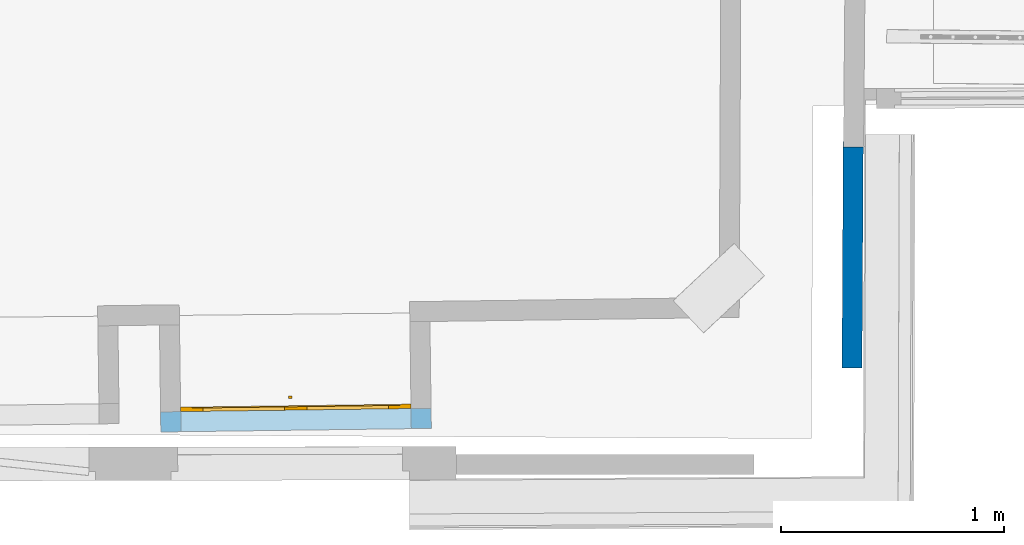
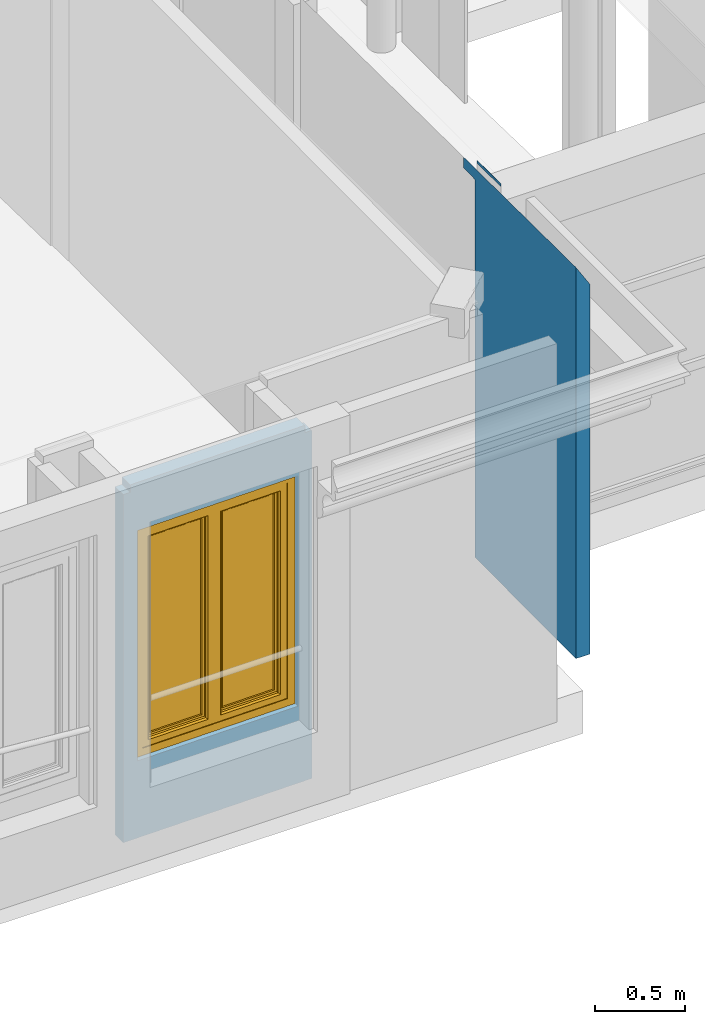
# One storey, part 52 of 72: 1 wall, 1 window, 1 opening, plus 1 element that does not belong to this part.
"""IFC2X3 building model written with IfcOpenShell, lengths in centimetres."""

from ifc_helpers import new_model, entity, si_unit, converted_unit, direction, frame, origin, origin_with_axes, origin_2d_with_axis, place, context, subcontext, project, spatial, polyline, rectangle, outline, extrude, clip, bounded_halfspace, faceted_brep, shape, source, transform, mapped, material, material_list, layer, layer_set, layer_usage, type_object, element, fill, save


model = new_model("IFC2X3")

# Units and contexts
model_context = context("Model", 3, precision=0.0001, world=origin(), true_north=direction((0.225632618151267, 0.974212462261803, 0.0)))
body_context = subcontext(model_context, "Body", "Model", "MODEL_VIEW")
footprint_context = subcontext(model_context, "FootPrint", "Model", "MODEL_VIEW")
profile_context = subcontext(model_context, "Profile", "Model", "MODEL_VIEW")
ifc_project = project(units=[si_unit("LENGTHUNIT", "METRE", prefix="CENTI"), si_unit("AREAUNIT", "SQUARE_METRE", prefix="CENTI"), si_unit("VOLUMEUNIT", "CUBIC_METRE", prefix="CENTI"), converted_unit("PLANEANGLEUNIT", "DEGREE", entity("IfcRatioMeasure", 0.0174532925), si_unit("PLANEANGLEUNIT", "RADIAN"), dimensions=[0, 0, 0, 0, 0, 0, 0])], contexts=[model_context])

# Site, building, storey
site_placement = place(None, origin_with_axes())
site = spatial("IfcSite", under=ifc_project, at=site_placement, Name="Default Site", CompositionType="ELEMENT")
building_placement = place(site_placement, origin_with_axes())
building = spatial("IfcBuilding", under=site, at=building_placement, Name="Default Building", CompositionType="ELEMENT")
storey_placement = place(building_placement, frame((0.0, 0.0, 853.910374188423), z_axis=(0.0, 0.0, 1.0), x_axis=(1.0, 0.0, 0.0)))
storey = spatial("IfcBuildingStorey", under=building, at=storey_placement, Name="Niveau 2", CompositionType="ELEMENT", Elevation=853.910374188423)

# Wall
ifc_material_1 = material(Name="<aucun>")
ifc_layer = layer(ifc_material_1, 9.0)
ifc_layer_set = layer_set([ifc_layer], Name="default")
ifc_layer_usage_1 = layer_usage(ifc_layer_set, "AXIS2", "POSITIVE", -4.5)
wall_type_1 = type_object("IfcWallType", Name="default 90", PredefinedType="NOTDEFINED", material=ifc_layer_set)
wall_1_placement = place(storey_placement, frame((889.237051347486, -999.693857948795, -1.95399252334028e-11), z_axis=(0.0, 0.0, 1.0), x_axis=(0.00565295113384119, 0.99998402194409, 0.0)))
element("IfcWall", 1, at=wall_1_placement, inside=storey, type_object=wall_type_1, material=ifc_layer_usage_1, Name="Enveloppe 550910", context=body_context, shape_type="Brep", body=[
    faceted_brep([(112.52012072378, 4.49998308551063, -2.33888428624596e-05), (109.939532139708, 4.49998308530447, -2.33888428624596e-05), (96.8534807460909, 4.49998308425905, -2.33888428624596e-05), (0.155081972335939, 4.499983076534, -2.33888428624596e-05), (0.155081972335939, 4.499983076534, 264.245105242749), (112.52012072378, 4.49998308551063, 262.555194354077), (112.52012072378, 4.49998308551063, 254.999995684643), (125.411237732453, 4.49999522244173, 254.999995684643), (112.52012072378, 4.49999522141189, 254.999995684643), (112.52012072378, 4.49999522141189, 262.555194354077), (125.411237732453, 4.49999522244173, 262.361312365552), (125.506476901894, -4.21590280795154, 254.999995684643), (99.5080256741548, -4.49997071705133, 254.999995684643), (99.5080256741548, -4.49997071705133, 256.961608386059), (125.506476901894, -4.21590280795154, 256.961608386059), (0.155032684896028, -4.50003249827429, -2.33888428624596e-05), (97.0990062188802, -4.50003249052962, -2.33888428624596e-05), (99.3097539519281, -4.500032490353, -2.33888428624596e-05), (99.3097539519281, -4.500032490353, 248.182845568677), (0.155032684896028, -4.50003249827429, 249.674010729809), (112.519797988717, 4.33775866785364, 254.999995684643), (99.3097085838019, 4.38174931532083, 254.999995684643), (99.3097085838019, 4.38174931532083, -2.33888428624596e-05), (112.519797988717, 4.33775866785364, -2.33888428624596e-05), (99.5080261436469, -4.50001368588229, 254.999995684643), (110.394106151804, -4.50001368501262, 254.999995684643), (110.394106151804, -4.50001368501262, 256.961608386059), (99.5080261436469, -4.50001368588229, 256.961608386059), (110.394106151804, -4.49998720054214, 254.999995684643), (125.507817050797, -4.33484966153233, 254.999995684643), (125.507817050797, -4.33484966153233, 256.961608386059), (110.394106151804, -4.49998720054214, 256.961608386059), (99.3097088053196, 4.38181583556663, -2.33888428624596e-05), (99.3096973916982, -0.289260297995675, -2.33888428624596e-05), (99.3097539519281, -4.49999009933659, -2.33888428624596e-05), (0.155011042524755, -4.31062987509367, -2.33888428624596e-05), (0.155035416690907, 0.189449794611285, -2.33888428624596e-05), (0.155081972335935, 4.50003147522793, -2.33888428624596e-05), (112.519797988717, 4.33775866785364, 262.292552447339), (112.520120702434, 4.49998538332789, 262.555192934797), (0.155082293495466, 4.49999690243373, 264.245126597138), (0.155035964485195, 0.189390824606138, 257.266248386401), (0.155011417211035, -4.31067021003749, 249.980641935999), (0.155032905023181, -4.50005619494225, 249.674025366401), (99.3097541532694, -4.50001177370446, 248.182858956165), (99.3096977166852, -0.289295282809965, 255.000017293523), (99.3097092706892, 4.38176573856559, 262.562473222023), (0.15503541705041, -4.31062987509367, -2.33888428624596e-05), (0.15503541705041, -4.31062987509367, 249.980617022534), (0.155035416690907, 0.189449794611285, 257.26621196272), (0.155011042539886, -4.50003249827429, -2.33888428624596e-05), (0.155011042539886, -4.50003249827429, 249.674010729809), (0.155011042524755, -4.31062987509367, 249.980617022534), (0.1550819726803, 0.189449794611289, -2.33888428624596e-05), (0.1550819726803, 0.189449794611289, 257.26621196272), (0.155081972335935, 4.50003147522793, 264.245105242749), (99.3097088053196, 4.38181583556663, 254.999995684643), (99.3097088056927, -0.289260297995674, 254.999995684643), (99.3097088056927, -0.289260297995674, -2.33888428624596e-05), (99.3096973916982, -0.289260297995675, 254.999995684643), (99.3096973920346, -4.4999900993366, 248.182845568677), (99.3096973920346, -4.4999900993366, -2.33888428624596e-05), (125.413541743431, 4.29486962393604, 254.999995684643), (112.519798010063, 4.33775637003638, 262.292553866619), (125.413541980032, 4.29484415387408, 262.029163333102), (125.411237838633, 4.49998379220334, 262.361319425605), (125.507816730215, -4.33482032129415, 254.999995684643), (125.507816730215, -4.33482032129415, 256.961608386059), (125.46097134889, -0.0463432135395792, 254.999995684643), (125.413541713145, 4.29487288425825, 262.029145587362), (112.519797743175, 4.33778510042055, 262.292536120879), (99.3097090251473, 4.3817921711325, 262.562456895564), (99.3096974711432, -0.289268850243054, 255.000000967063), (112.520141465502, 4.49998304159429, -2.33888428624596e-05), (112.520141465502, 4.49998304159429, 254.999995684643), (125.411300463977, 4.49999590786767, 254.999995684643), (125.411300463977, 4.49999590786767, 262.361312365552), (125.413541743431, 4.29486962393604, 262.029147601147), (125.506517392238, -4.2159023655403, 254.999995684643), (125.506517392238, -4.2159023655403, 256.961608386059), (125.413537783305, 4.29486958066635, 254.999995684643), (125.413537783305, 4.29486958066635, 262.029147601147)], [[[0, 1, 2, 3, 4, 5, 6]], [[7, 8, 9, 10]], [[11, 12, 13, 14]], [[15, 16, 17, 18, 19]], [[20, 21, 22, 23]], [[24, 25, 26, 27]], [[28, 29, 30, 31]], [[32, 33, 34, 15, 35, 36, 37, 0, 23]], [[38, 39, 40, 41, 42, 43, 44, 45, 46]], [[36, 47, 48, 49]], [[35, 50, 51, 52]], [[37, 53, 54, 55]], [[56, 57, 58, 32]], [[59, 60, 61, 33]], [[7, 62, 20, 6]], [[5, 63, 64, 65]], [[28, 24, 11, 66]], [[67, 14, 27, 31]], [[59, 56, 20, 62, 68]], [[68, 69, 70, 71, 72]], [[20, 23, 73, 74]], [[62, 75, 76, 77]], [[66, 78, 79, 67]], [[68, 80, 81]]]),
])

# Wall, opening, window
ifc_layer_usage_2 = layer_usage(ifc_layer_set, "AXIS2", "POSITIVE", -4.5)
wall_type_2 = type_object("IfcWallType", Name="default 90", PredefinedType="NOTDEFINED", material=ifc_layer_set)
wall_2_placement = place(storey_placement, frame((583.761002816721, -1023.5950985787, 1.4210854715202e-12), z_axis=(0.0, 0.0, 1.0), x_axis=(0.999912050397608, 0.0132624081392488, 0.0)))
wall_2 = element("IfcWallStandardCase", 2, at=wall_2_placement, inside=storey, type_object=wall_type_2, material=ifc_layer_usage_2, Name="Enveloppe 466655", context=body_context, shape_type="Clipping", body=[
    clip(clip(extrude(rectangle(XDim=121.302750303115, YDim=9.00000000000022, at=origin_2d_with_axis()), frame((56.1513751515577, 0.0, 0.0), z_axis=(0.0, 0.0, 1.0), x_axis=(1.0, -2.46504205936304e-15, 0.0)), (0.0, 0.0, 1.0), 240.000000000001), bounded_halfspace(frame((-4.49999999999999, -4.49999999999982, 234.999999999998), z_axis=(0.0, 0.0, -1.0), x_axis=(1.0, -2.61943244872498e-16, 0.0)), True, frame((-4.49999999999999, -4.49999999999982, 234.999999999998), z_axis=(0.0, 0.0, 1.0), x_axis=(1.0, 0.0, 0.0)), polyline([(0.0, 1.77635683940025e-13), (4.49999999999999, 1.77635683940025e-13), (4.49999999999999, 9.00000000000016), (-1.77635683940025e-13, 9.00000000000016), (0.0, 1.77635683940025e-13)]))), bounded_halfspace(frame((116.802750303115, 4.49999999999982, 234.999999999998), z_axis=(0.0, 0.0, -1.0), x_axis=(-1.0, 3.04773567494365e-14, 0.0)), True, frame((116.802750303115, 4.49999999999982, 234.999999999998), z_axis=(0.0, 0.0, 1.0), x_axis=(1.0, 0.0, 0.0)), polyline([(-4.49999999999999, -8.99999999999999), (2.66453525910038e-13, -8.99999999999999), (0.0, 0.0), (-4.49999999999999, 0.0), (-4.49999999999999, -8.99999999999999)]))),
])
opening_placement = place(wall_2_placement, frame((4.54272500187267, -2.27373675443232e-13, 51.9999999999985), z_axis=(0.0, 0.0, 1.0), x_axis=(1.0, -4.20150025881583e-15, 0.0)))
cartesian_point_1 = entity("IfcCartesianPoint", [0.0, 1.77635683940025e-13, 155.6])
cartesian_point_2 = entity("IfcCartesianPoint", [103.260025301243, 4.49999999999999])
opening = element("IfcOpeningElement", 3, at=opening_placement, cuts=wall_2, Name="4294966445_11", ObjectType="Opening", shapes=[
    shape(body_context, "Body", "SweptSolid", [extrude(outline(polyline([(0.0, 155.6), (0.0, -1.77635683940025e-13), (103.260025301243, -1.77635683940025e-13), (103.260025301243, 155.6), (0.0, 155.6)])), frame((0.0, 14.5, 0.0), z_axis=(0.0, -1.0, 0.0), x_axis=(1.0, 0.0, 0.0)), (0.0, 0.0, 1.0), 29.0)]),
    shape(profile_context, "Profile", "GeometricCurveSet", [entity("IfcGeometricCurveSet", [entity("IfcPolyline", [cartesian_point_1, entity("IfcCartesianPoint", [0.0, 1.77635683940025e-13, -1.77635683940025e-13]), entity("IfcCartesianPoint", [103.260025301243, 1.77635683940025e-13, -1.77635683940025e-13]), entity("IfcCartesianPoint", [103.260025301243, 1.77635683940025e-13, 155.6]), cartesian_point_1])])]),
    shape(footprint_context, "FootPrint", "GeometricCurveSet", [entity("IfcGeometricCurveSet", [entity("IfcPolyline", [cartesian_point_2, entity("IfcCartesianPoint", [0.0, 4.50000000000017]), entity("IfcCartesianPoint", [0.0, -4.49999999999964]), entity("IfcCartesianPoint", [103.260025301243, -4.49999999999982]), cartesian_point_2])])]),
])
ifc_material_2 = material(Name="Transparent")
ifc_material_3 = material(Name="Jaune 255-255-0")
ifc_material_4 = material(Name="Aluminium satiné")
ifc_material_list = material_list([ifc_material_2, ifc_material_3, ifc_material_4])
window_style = type_object("IfcWindowStyle", Name="FN[R] 2VB[1V] MM", ConstructionType="NOTDEFINED", OperationType="DOUBLE_PANEL_VERTICAL", ParameterTakesPrecedence=True, Sizeable=False, material=ifc_material_list)
shared_shape = source(origin_with_axes(), body_context, "Body", "Brep", [
    faceted_brep([(-46.6300129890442, 150.600004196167, -3.99999991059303), (-46.6300129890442, 150.600004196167, 3.99999991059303), (-46.6300129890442, 5.00000007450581, 3.99999991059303), (-46.6300129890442, 5.00000007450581, -3.99999991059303), (-51.6300141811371, 155.599999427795, 3.99999991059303), (-51.6300141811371, 0.0, 3.99999991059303), (-51.6300141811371, 155.599999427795, -3.99999991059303), (-51.6300141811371, 0.0, -3.99999991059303), (46.6300129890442, 5.0000000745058, 3.99999991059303), (46.6300129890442, 5.0000000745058, -3.99999991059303), (51.6300141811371, 0.0, 3.99999991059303), (46.6300129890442, 5.00000007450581, 3.99999991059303), (51.6300141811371, 0.0, -3.99999991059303), (46.6300129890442, 5.00000007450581, -3.99999991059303), (46.6300129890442, 150.600004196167, 3.99999991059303), (46.6300129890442, 150.600004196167, -3.99999991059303), (51.6300141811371, 155.599999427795, 3.99999991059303), (51.6300141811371, 155.599999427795, -3.99999991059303)], [[[0, 1, 2, 3]], [[1, 4, 5, 2]], [[4, 6, 7, 5]], [[6, 0, 3, 7]], [[3, 2, 8, 9]], [[2, 5, 10, 11]], [[5, 7, 12, 10]], [[7, 3, 13, 12]], [[13, 11, 14, 15]], [[11, 10, 16, 14]], [[10, 12, 17, 16]], [[12, 13, 15, 17]], [[15, 14, 1, 0]], [[14, 16, 4, 1]], [[16, 17, 6, 4]], [[17, 15, 0, 6]]]),
    faceted_brep([(-42.6300138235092, 146.599996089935, -3.50000001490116), (-41.6300128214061, 145.59999704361, -2.49999901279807), (-41.6300128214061, 10.0000001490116, -2.49999901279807), (-42.6300138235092, 9.00000035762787, -3.50000001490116), (-41.6300117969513, 145.59999704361, -2.5000000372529), (-41.6300117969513, 145.59999704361, 3.50000001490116), (-41.6300117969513, 10.0000001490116, 3.50000001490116), (-41.6300117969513, 10.0000001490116, -2.5000000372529), (-46.6300129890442, 150.600004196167, 3.50000001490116), (-46.6300129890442, 5.00000007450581, 3.50000001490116), (-46.6300129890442, 150.600004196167, -3.50000001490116), (-46.6300129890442, 5.00000007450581, -3.50000001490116), (-41.6300117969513, 10.0000002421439, -2.50000013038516), (-5.00000007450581, 10.0000002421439, -2.50000013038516), (-3.99999991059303, 9.00000035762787, -3.50000001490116), (-5.00000007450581, 10.0000001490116, 3.50000001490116), (-5.00000007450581, 10.0000001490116, -2.5000000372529), (0.0, 5.00000007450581, 3.50000001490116), (0.0, 5.00000007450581, -3.50000001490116), (-4.99999998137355, 10.0000001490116, -2.49999994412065), (-4.99999998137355, 145.59999704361, -2.49999994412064), (-3.99999991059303, 146.599996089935, -3.50000001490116), (-5.0000000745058, 145.59999704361, 3.50000001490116), (-5.0000000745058, 145.59999704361, -2.5000000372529), (1.11022302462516e-14, 150.600004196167, 3.50000001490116), (-5.00000007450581, 145.59999704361, 3.50000001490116), (1.11022303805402e-14, 150.600004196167, -3.50000001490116), (1.11022303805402e-14, 150.600004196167, 3.50000001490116), (1.11022302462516e-14, 150.600004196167, -3.50000001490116), (-5.00000007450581, 145.599996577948, -2.50000050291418), (-41.6300117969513, 145.599996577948, -2.50000050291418), (-42.6300138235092, 146.599996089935, -3.50000001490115), (-5.00000007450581, 145.59999704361, -2.5000000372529)], [[[0, 1, 2, 3]], [[4, 5, 6, 7]], [[5, 8, 9, 6]], [[8, 10, 11, 9]], [[10, 0, 3, 11]], [[3, 12, 13, 14]], [[7, 6, 15, 16]], [[6, 9, 17, 15]], [[9, 11, 18, 17]], [[11, 3, 14, 18]], [[14, 19, 20, 21]], [[16, 15, 22, 23]], [[15, 17, 24, 25]], [[17, 18, 26, 27]], [[18, 14, 21, 28]], [[21, 29, 30, 31]], [[32, 25, 5, 4]], [[25, 24, 8, 5]], [[24, 28, 10, 8]], [[28, 21, 0, 10]]]),
    faceted_brep([(-40.1300132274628, 144.099998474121, -0.999999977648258), (-39.6300134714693, 143.599998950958, -0.500000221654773), (-39.6300134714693, 11.9999997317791, -0.500000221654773), (-40.1300132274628, 11.5000002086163, -0.999999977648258), (-39.6300137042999, 143.599998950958, -0.499999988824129), (-39.6300137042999, 143.599998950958, 0.499999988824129), (-39.6300137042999, 11.9999997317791, 0.499999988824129), (-39.6300137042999, 11.9999997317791, -0.499999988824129), (-40.1300134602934, 144.099998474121, 0.999999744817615), (-40.1300134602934, 11.5000002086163, 0.999999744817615), (-40.1300132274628, 144.099998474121, 0.999999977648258), (-41.6300117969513, 145.59999704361, 0.999999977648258), (-41.6300117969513, 10.0000001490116, 0.999999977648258), (-40.1300132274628, 11.5000002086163, 0.999999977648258), (-41.6300117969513, 145.59999704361, -0.999999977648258), (-41.6300117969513, 10.0000001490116, -0.999999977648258), (-39.6300137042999, 11.9999999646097, -0.500000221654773), (-7.00000002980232, 11.9999999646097, -0.500000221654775), (-6.49999976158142, 11.5000002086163, -0.99999997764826), (-7.00000002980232, 11.9999997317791, 0.499999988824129), (-7.00000002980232, 11.9999997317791, -0.499999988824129), (-40.1300132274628, 11.4999999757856, 0.999999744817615), (-6.49999976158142, 11.4999999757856, 0.999999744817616), (-7.00000002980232, 11.9999997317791, 0.499999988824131), (-5.00000007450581, 10.0000001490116, 0.999999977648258), (-6.49999976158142, 11.5000002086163, 0.999999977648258), (-5.00000007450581, 10.0000001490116, -0.999999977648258), (-6.49999976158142, 11.5000002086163, -0.999999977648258), (-6.99999989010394, 11.9999997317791, -0.499999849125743), (-6.99999989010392, 143.599998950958, -0.499999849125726), (-6.4999997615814, 144.099998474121, -0.999999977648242), (-7.00000002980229, 143.599998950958, 0.499999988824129), (-7.00000002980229, 143.599998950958, -0.499999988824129), (-6.49999990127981, 11.5000002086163, 1.00000011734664), (-6.4999999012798, 144.099998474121, 1.00000011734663), (-7.00000002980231, 143.599998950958, 0.499999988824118), (-5.00000007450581, 145.59999704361, 0.999999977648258), (-6.49999976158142, 144.099998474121, 0.999999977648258), (-5.0000000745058, 145.59999704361, -0.999999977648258), (-5.0000000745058, 145.59999704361, 0.999999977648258), (-6.49999976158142, 144.099998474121, -0.999999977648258), (-5.00000007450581, 145.59999704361, -0.999999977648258), (-7.00000002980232, 143.599998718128, -0.500000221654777), (-39.6300137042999, 143.599998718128, -0.500000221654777), (-7.00000002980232, 143.599998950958, -0.499999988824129), (-7.00000002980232, 143.599998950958, 0.499999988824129), (-6.49999976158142, 144.099998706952, 0.999999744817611), (-40.1300132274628, 144.099998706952, 0.999999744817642), (-39.6300137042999, 143.599998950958, 0.499999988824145)], [[[0, 1, 2, 3]], [[4, 5, 6, 7]], [[5, 8, 9, 6]], [[10, 11, 12, 13]], [[11, 14, 15, 12]], [[14, 0, 3, 15]], [[3, 16, 17, 18]], [[7, 6, 19, 20]], [[6, 21, 22, 23]], [[13, 12, 24, 25]], [[12, 15, 26, 24]], [[15, 3, 27, 26]], [[27, 28, 29, 30]], [[20, 19, 31, 32]], [[19, 33, 34, 35]], [[25, 24, 36, 37]], [[24, 26, 38, 39]], [[26, 27, 40, 41]], [[40, 42, 43, 0]], [[44, 45, 5, 4]], [[45, 46, 47, 48]], [[37, 36, 11, 10]], [[36, 41, 14, 11]], [[41, 40, 0, 14]]]),
    faceted_brep([(-7.00000002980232, 143.599998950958, -0.499999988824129), (-7.00000002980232, 11.9999997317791, -0.499999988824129), (-39.6300137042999, 11.9999997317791, -0.499999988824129), (-39.6300137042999, 143.599998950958, -0.499999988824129), (-39.6300137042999, 143.599998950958, 0.499999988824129), (-39.6300137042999, 11.9999997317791, 0.499999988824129), (-7.00000002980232, 11.9999997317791, 0.499999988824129), (-7.00000002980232, 143.599998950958, 0.499999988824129), (-7.00000002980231, 143.599998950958, -0.499999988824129), (-7.00000002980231, 143.599998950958, 0.499999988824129)], [[[0, 1, 2, 3]], [[4, 5, 6, 7]], [[3, 2, 5, 4]], [[2, 1, 6, 5]], [[1, 8, 9, 6]], [[0, 3, 4, 7]]]),
    faceted_brep([(3.99999991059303, 146.599996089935, -3.50000001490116), (4.99999998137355, 145.59999704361, -2.49999994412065), (4.99999998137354, 10.0000001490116, -2.49999994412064), (3.99999991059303, 9.00000035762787, -3.50000001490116), (5.00000007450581, 145.59999704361, -2.5000000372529), (5.00000007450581, 145.59999704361, 3.50000001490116), (5.0000000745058, 10.0000001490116, 3.50000001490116), (5.0000000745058, 10.0000001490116, -2.5000000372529), (1.11022302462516e-14, 150.600004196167, 3.50000001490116), (0.0, 5.00000007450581, 3.50000001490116), (5.00000007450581, 10.0000001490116, 3.50000001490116), (1.11022302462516e-14, 150.600004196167, -3.50000001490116), (-1.34288676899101e-22, 5.00000007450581, -3.50000001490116), (-1.34288676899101e-22, 5.00000007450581, 3.50000001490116), (0.0, 5.00000007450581, -3.50000001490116), (5.00000007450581, 10.0000002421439, -2.50000013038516), (41.6300117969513, 10.0000002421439, -2.50000013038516), (42.6300138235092, 9.00000035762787, -3.50000001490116), (5.00000007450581, 10.0000001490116, -2.5000000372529), (41.6300117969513, 10.0000001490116, 3.50000001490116), (41.6300117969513, 10.0000001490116, -2.5000000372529), (46.6300129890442, 5.00000007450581, 3.50000001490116), (46.6300129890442, 5.00000007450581, -3.50000001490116), (41.6300128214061, 10.0000001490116, -2.49999901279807), (41.6300128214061, 145.59999704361, -2.49999901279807), (42.6300138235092, 146.599996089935, -3.50000001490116), (41.6300117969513, 145.59999704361, 3.50000001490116), (41.6300117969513, 145.59999704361, -2.5000000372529), (46.6300129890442, 150.600004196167, 3.50000001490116), (46.6300129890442, 150.600004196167, -3.50000001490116), (41.6300117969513, 145.599996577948, -2.5000005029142), (5.00000007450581, 145.599996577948, -2.5000005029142), (3.99999991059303, 146.599996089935, -3.50000001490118)], [[[0, 1, 2, 3]], [[4, 5, 6, 7]], [[5, 8, 9, 10]], [[8, 11, 12, 13]], [[11, 0, 3, 14]], [[3, 15, 16, 17]], [[18, 10, 19, 20]], [[10, 9, 21, 19]], [[9, 14, 22, 21]], [[14, 3, 17, 22]], [[17, 23, 24, 25]], [[20, 19, 26, 27]], [[19, 21, 28, 26]], [[21, 22, 29, 28]], [[22, 17, 25, 29]], [[25, 30, 31, 32]], [[27, 26, 5, 4]], [[26, 28, 8, 5]], [[28, 29, 11, 8]], [[29, 25, 0, 11]]]),
    faceted_brep([(4.50000017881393, 79.7999978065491, 3.50000001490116), (4.50000017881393, 75.8000016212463, 3.50000001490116), (0.499999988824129, 75.8000016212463, 3.50000001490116), (0.499999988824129, 79.7999978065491, 3.50000001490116), (0.499999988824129, 79.7999978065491, 4.30000014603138), (0.499999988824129, 75.8000016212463, 4.30000014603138), (4.50000017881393, 75.8000016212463, 4.30000014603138), (4.50000017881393, 79.7999978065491, 4.30000014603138)], [[[0, 1, 2, 3]], [[4, 5, 6, 7]], [[3, 2, 5, 4]], [[2, 1, 6, 5]], [[1, 0, 7, 6]], [[0, 3, 4, 7]]]),
    faceted_brep([(3.24999988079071, 78.2999992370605, 4.30000014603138), (3.24999988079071, 77.3000001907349, 4.30000014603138), (1.75000000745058, 77.3000001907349, 4.30000014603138), (1.75000000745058, 78.2999992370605, 4.30000014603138), (1.75000000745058, 78.2999992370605, 8.29999968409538), (1.75000000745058, 77.2999998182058, 7.30000026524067), (3.24999988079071, 77.2999998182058, 7.30000026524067), (3.24999988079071, 78.2999992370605, 8.29999968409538), (1.75000000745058, 77.3000001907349, 7.29999989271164), (3.24999988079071, 77.3000001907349, 7.29999989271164)], [[[0, 1, 2, 3]], [[4, 5, 6, 7]], [[3, 2, 8, 4]], [[2, 1, 9, 8]], [[1, 0, 7, 9]], [[0, 3, 4, 7]]]),
    faceted_brep([(3.24999988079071, 78.2999992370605, 8.29999968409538), (3.24999988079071, 77.2999998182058, 7.30000026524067), (1.75000000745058, 77.2999998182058, 7.30000026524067), (1.75000000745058, 78.2999992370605, 8.29999968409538), (1.75000000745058, 65.2999997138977, 8.29999968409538), (1.75000000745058, 65.2999997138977, 7.29999989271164), (3.24999988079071, 65.2999997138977, 7.29999989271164), (3.24999988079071, 65.2999997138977, 8.29999968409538), (1.75000000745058, 77.3000001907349, 7.29999989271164), (3.24999988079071, 77.3000001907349, 7.29999989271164)], [[[0, 1, 2, 3]], [[4, 5, 6, 7]], [[3, 8, 5, 4]], [[8, 9, 6, 5]], [[9, 0, 7, 6]], [[0, 3, 4, 7]]]),
    faceted_brep([(6.49999976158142, 144.099998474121, -0.999999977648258), (6.99999989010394, 143.599998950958, -0.499999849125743), (6.99999989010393, 11.9999997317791, -0.499999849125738), (6.49999976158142, 11.5000002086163, -0.999999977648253), (7.00000002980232, 143.599998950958, -0.499999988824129), (7.00000002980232, 143.599998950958, 0.499999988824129), (7.00000002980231, 11.9999997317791, 0.499999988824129), (7.00000002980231, 11.9999997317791, -0.499999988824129), (6.49999990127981, 144.099998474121, 1.00000011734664), (6.4999999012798, 11.5000002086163, 1.00000011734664), (7.00000002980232, 11.9999997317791, 0.499999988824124), (6.49999976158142, 144.099998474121, 0.999999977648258), (5.00000007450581, 145.59999704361, 0.999999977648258), (5.00000007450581, 10.0000001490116, 0.999999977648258), (6.49999976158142, 11.5000002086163, 0.999999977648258), (5.00000007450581, 145.59999704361, -0.999999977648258), (5.0000000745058, 10.0000001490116, -0.999999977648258), (5.0000000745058, 10.0000001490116, 0.999999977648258), (6.49999976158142, 11.5000002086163, -0.999999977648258), (5.00000007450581, 10.0000001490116, -0.999999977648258), (7.00000002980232, 11.9999999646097, -0.500000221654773), (39.6300137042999, 11.9999999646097, -0.500000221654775), (40.1300132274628, 11.5000002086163, -0.99999997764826), (7.00000002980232, 11.9999997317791, -0.499999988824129), (7.00000002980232, 11.9999997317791, 0.499999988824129), (39.6300137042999, 11.9999997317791, 0.499999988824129), (39.6300137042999, 11.9999997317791, -0.499999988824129), (6.49999976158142, 11.4999999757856, 0.999999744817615), (40.1300132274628, 11.4999999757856, 0.999999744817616), (39.6300137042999, 11.9999997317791, 0.499999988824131), (41.6300117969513, 10.0000001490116, 0.999999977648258), (40.1300132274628, 11.5000002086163, 0.999999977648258), (41.6300117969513, 10.0000001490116, -0.999999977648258), (40.1300132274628, 11.5000002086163, -0.999999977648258), (39.6300134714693, 11.9999997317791, -0.500000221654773), (39.6300134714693, 143.599998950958, -0.500000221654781), (40.1300132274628, 144.099998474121, -0.999999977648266), (39.6300137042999, 143.599998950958, 0.499999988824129), (39.6300137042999, 143.599998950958, -0.499999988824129), (40.1300134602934, 11.5000002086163, 0.999999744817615), (40.1300134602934, 144.099998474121, 0.999999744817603), (39.6300137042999, 143.599998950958, 0.499999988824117), (41.6300117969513, 145.59999704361, 0.999999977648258), (40.1300132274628, 144.099998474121, 0.999999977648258), (41.6300117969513, 145.59999704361, -0.999999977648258), (40.1300132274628, 144.099998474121, -0.999999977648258), (39.6300137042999, 143.599998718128, -0.500000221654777), (7.00000002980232, 143.599998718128, -0.500000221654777), (40.1300132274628, 144.099998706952, 0.999999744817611), (6.49999976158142, 144.099998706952, 0.999999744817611)], [[[0, 1, 2, 3]], [[4, 5, 6, 7]], [[5, 8, 9, 10]], [[11, 12, 13, 14]], [[12, 15, 16, 17]], [[15, 0, 18, 19]], [[18, 20, 21, 22]], [[23, 24, 25, 26]], [[24, 27, 28, 29]], [[14, 13, 30, 31]], [[13, 19, 32, 30]], [[19, 18, 33, 32]], [[33, 34, 35, 36]], [[26, 25, 37, 38]], [[25, 39, 40, 41]], [[31, 30, 42, 43]], [[30, 32, 44, 42]], [[32, 33, 45, 44]], [[45, 46, 47, 0]], [[38, 37, 5, 4]], [[37, 48, 49, 5]], [[43, 42, 12, 11]], [[42, 44, 15, 12]], [[44, 45, 0, 15]]]),
    faceted_brep([(39.6300137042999, 143.599998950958, -0.499999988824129), (39.6300137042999, 11.9999997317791, -0.499999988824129), (7.00000002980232, 11.9999997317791, -0.499999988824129), (7.00000002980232, 143.599998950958, -0.499999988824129), (7.00000002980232, 143.599998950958, 0.499999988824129), (7.00000002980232, 11.9999997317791, 0.499999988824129), (39.6300137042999, 11.9999997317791, 0.499999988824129), (39.6300137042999, 143.599998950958, 0.499999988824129), (7.00000002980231, 11.9999997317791, -0.499999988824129), (7.00000002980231, 11.9999997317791, 0.499999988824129)], [[[0, 1, 2, 3]], [[4, 5, 6, 7]], [[3, 8, 9, 4]], [[2, 1, 6, 5]], [[1, 0, 7, 6]], [[0, 3, 4, 7]]]),
])
window_placement = place(opening_placement, frame((-1.13686837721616e-13, -1.49999999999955, 0.0), z_axis=(0.0, 0.0, 1.0), x_axis=(1.0, 0.0, 0.0)))
window = element("IfcWindow", 4, at=window_placement, inside=storey, type_object=window_style, material=ifc_material_list, Name="Fenêtre 152974", OverallHeight=155.6, OverallWidth=103.260025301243, context=body_context, shape_type="MappedRepresentation", body=[
    mapped(shared_shape, transform((51.6300126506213, 4.00000000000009, 1.77635683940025e-13), x_axis=(-1.0, 0.0, 0.0), y_axis=(0.0, 0.0, 1.0), z_axis=(0.0, 1.0, 0.0), scale=1.0, scale2=1.0, scale3=1.0, uniform=False)),
])
fill(opening, window)

save(model, "model.ifc")
